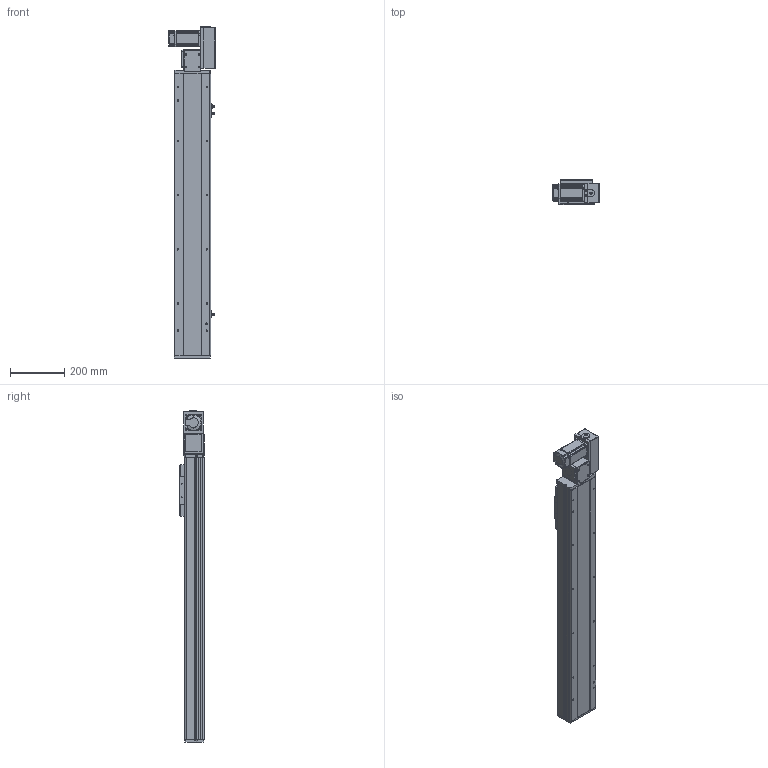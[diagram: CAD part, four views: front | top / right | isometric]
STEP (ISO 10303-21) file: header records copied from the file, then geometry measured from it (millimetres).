
FILE_DESCRIPTION (( 'STEP AP214' ), '1' );
FILE_NAME ('TPE14-L40-750-R-T40-C4.STEP', '2023-04-13T05:50:25', ( '' ), ( '' ), 'SwSTEP 2.0', 'SolidWorks 2020', '' );
FILE_SCHEMA (( 'AUTOMOTIVE_DESIGN' ));
Length unit declared in the file: millimetre
Products named in the file (10): 葩璃 詩湍75^TPE14-L40-R-T40-C4; 葩璃 pm-t65-672^TPE14-L40-R-T40-C4; TPE14-L40-750-R-T40-C4; 葩璃 TPT14-L-009 萇儂啣^TPE14-L40-R-T40-C4_400W; 葩璃 TPE14 賑雄殤^TPE14-L40-R-T40-C4; 葩璃 TPE14-L-007 々湍釱MZ-169x88^TPE14-L40-R-T40-C4_YCB14; 葩璃 侂狟400W^TPE14-L40-R-T40-C4; 葩璃 TPE14-L-001 菁釱MZ-135-01^TPE14-L40-R-T40-C4; hexagon head bolts-full thread gb_GB_FASTENER_BOLT_STBAB A M5X16-N; 葩璃 TPE14-L-002 耜裔ZTMZ-135-04^TPE14-L40-R-T40-C4
Assembly tree (12 placements, depth 2):
  TPE14-L40-750-R-T40-C4
    葩璃 TPE14-L-001 菁釱MZ-135-01^TPE14-L40-R-T40-C4
    葩璃 TPE14-L-002 耜裔ZTMZ-135-04^TPE14-L40-R-T40-C4  x2
    葩璃 詩湍75^TPE14-L40-R-T40-C4
    葩璃 TPE14-L-007 々湍釱MZ-169x88^TPE14-L40-R-T40-C4_YCB14
    葩璃 TPT14-L-009 萇儂啣^TPE14-L40-R-T40-C4_400W
    葩璃 TPE14 賑雄殤^TPE14-L40-R-T40-C4
    葩璃 pm-t65-672^TPE14-L40-R-T40-C4  x3
    葩璃 侂狟400W^TPE14-L40-R-T40-C4
    hexagon head bolts-full thread gb_GB_FASTENER_BOLT_STBAB A M5X16-N
Bounding box: 172.5 x 91 x 1225.15 mm (x, y, z)
Volume: 6015989.3 mm3; surface area: 1215236.5 mm2
Topology: 23 solids, 23 shells, 1404 faces, 3647 edges, 2320 vertices
Faces by surface type: plane 823, cylinder 417, cone 130, bspline 34
Entity records: 37343 total; most frequent: CARTESIAN_POINT 7320, DIRECTION 5968, ORIENTED_EDGE 5794, EDGE_CURVE 2897, AXIS2_PLACEMENT_3D 2022, LINE 1924, VECTOR 1924, VERTEX_POINT 1868
